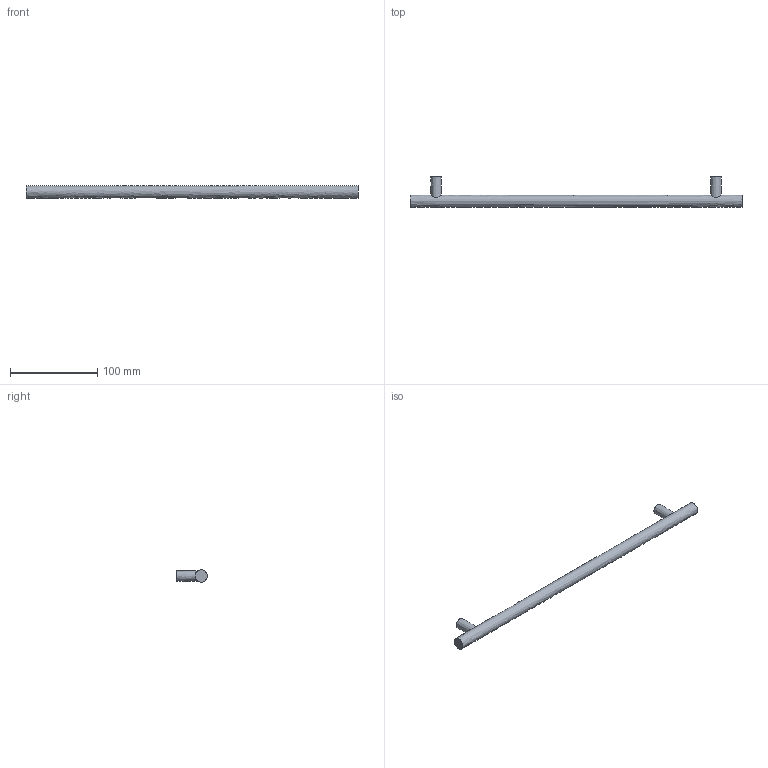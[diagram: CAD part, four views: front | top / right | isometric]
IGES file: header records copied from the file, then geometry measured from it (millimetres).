
Start section: Data from Parasolid IGES Translator 15.0.47, Copyright(c) 2006 Siemens P LM Software. All Rights Reserved.
Global section: file name: 9071054.igs; native system:  By UGS Corp.; preprocessor: XPlus GENERIC/IGES 3.0; author: Noname; organization: Noname; date: 20140122.181422; units: millimetre
Bounding box: 380 x 35 x 14 mm (x, y, z)
Surface area: 18993 mm2 (no closed solid volume)
Topology: 0 solids, 0 shells, 11 faces, 30 edges, 22 vertices
Faces by surface type: extrusion 6, revolution 5
